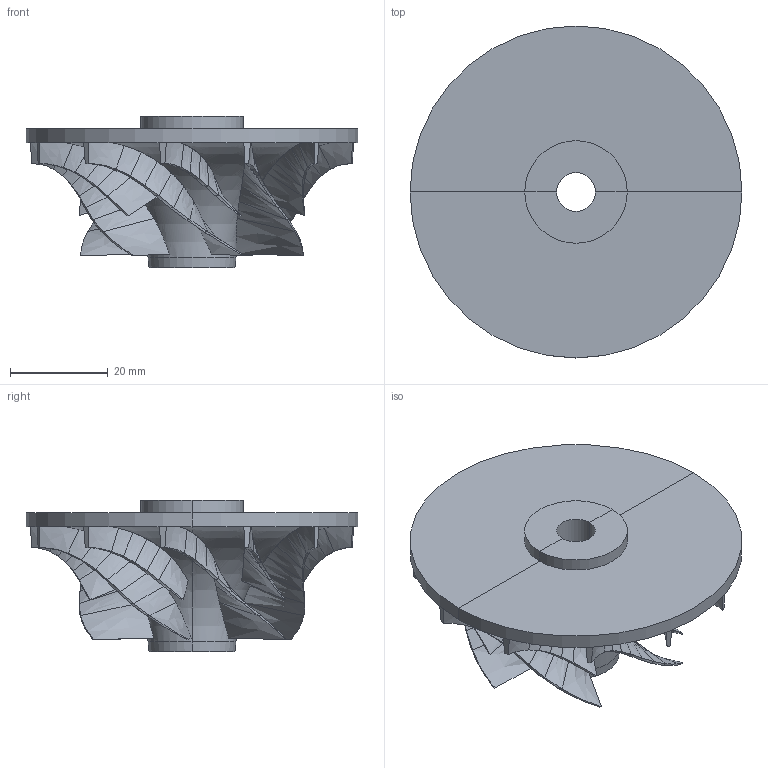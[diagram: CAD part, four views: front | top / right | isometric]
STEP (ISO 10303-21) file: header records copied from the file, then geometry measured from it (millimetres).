
FILE_DESCRIPTION(('BendCAD AP242 PMI export'),'2;1');
FILE_NAME('bendcad.step','',('BendCAD'),('BendCAD'),'BendCAD','BendCAD','');
FILE_SCHEMA(('AP242_MANAGED_MODEL_BASED_3D_ENGINEERING_MIM_LF'));
Products named in the file (1): BENDCAD
Bounding box: 68 x 68 x 31 mm (x, y, z)
Volume: 29078.6 mm3; surface area: 16081.8 mm2
Topology: 1 solids, 1 shells, 296 faces, 4420 edges, 4124 vertices
Faces by surface type: bspline 252, plane 32, cylinder 6, torus 4, cone 2
Entity records: 48430 total; most frequent: CARTESIAN_POINT 24555, ORIENTED_EDGE 8840, EDGE_CURVE 4420, VERTEX_POINT 4124, B_SPLINE_CURVE_WITH_KNOTS 4078, DIRECTION 458, VECTOR 308, LINE 308
